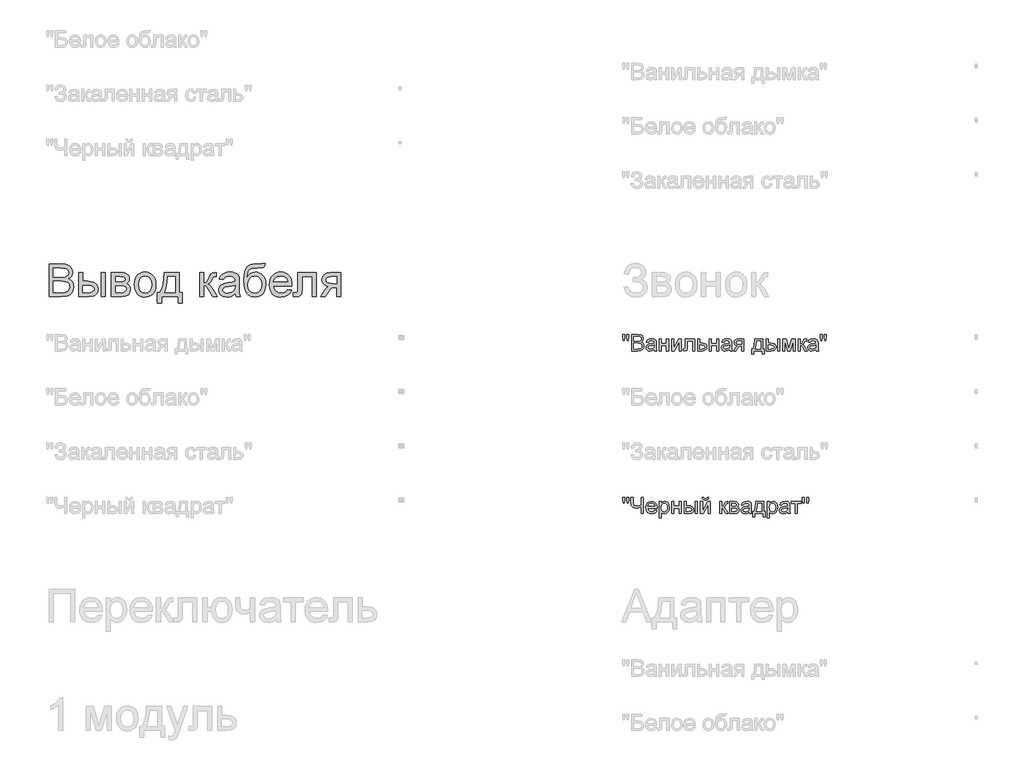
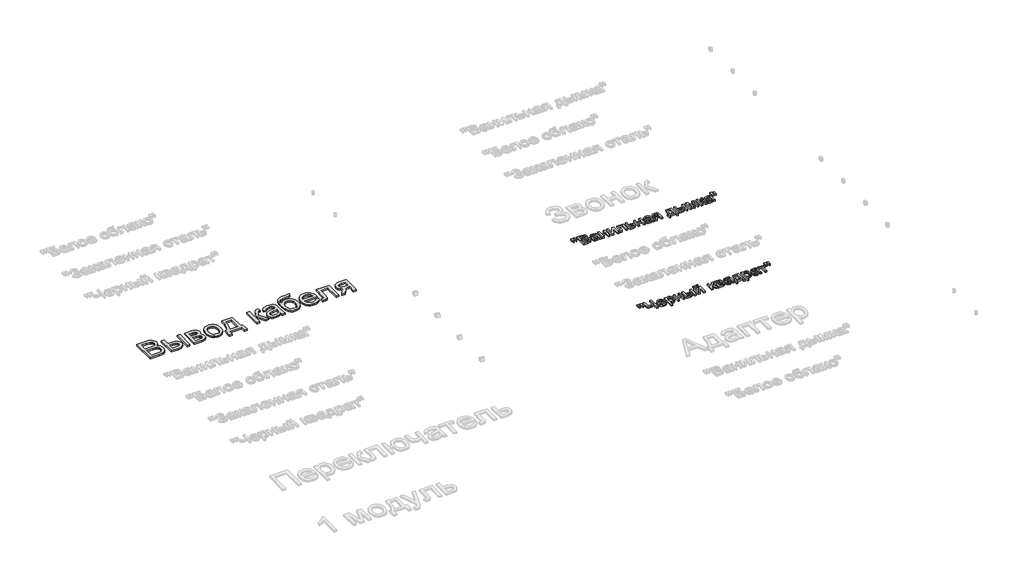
# One storey, part 65 of 168: 3 proxies.
"""IFC4 building model written with IfcOpenShell, lengths in millimetres."""

from ifc_helpers import new_model, si_unit, origin, origin_with_axes, place, context, project, spatial, polyline, outline, extrude, element, save

model = new_model("IFC4")

# Units and contexts
model_context = context("Model", 3, world=origin())
ifc_project = project(units=[si_unit("LENGTHUNIT", "METRE", prefix="MILLI")], contexts=[model_context])

# Site, building, storey
site = spatial("IfcSite", under=ifc_project)
building = spatial("IfcBuilding", under=site)
storey = spatial("IfcBuildingStorey", under=building, Name="Этаж 01", Elevation=0.0)

# Proxies
placement = place(None, origin())
element("IfcBuildingElementProxy", 1, Name="300 мм Arial 2", ObjectType="300 мм Arial 2", at=placement, inside=storey, context=model_context, shape_type="SweptSolid", body=[
    extrude(outline(polyline([(49099.0945017, -37566.8622977), (49099.0945017, -37265.4933673), (49214.0944134, -37265.4933673), (49245.7230679, -37267.7098563), (49270.4171468, -37274.3593234), (49289.3446755, -37285.6073154), (49303.6736792, -37301.6193792), (49312.6959851, -37320.4549374), (49315.7034204, -37340.1734123), (49313.1742317, -37358.3191917), (49305.5866656, -37375.3797192), (49292.8855397, -37390.3065312), (49275.0156718, -37402.0511639), (49296.3620245, -37413.1979883), (49312.1349651, -37430.1573483), (49321.8746409, -37451.8072037), (49325.1211995, -37477.0255145), (49322.9047105, -37498.0407735), (49316.2552434, -37517.5293222), (49306.3316266, -37534.1024061), (49294.2926883, -37546.3712706), (49279.5498173, -37555.2556208), (49261.5144025, -37561.6751616), (49213.2114966, -37566.8622977), (49099.0945017, -37566.8622977)]), holes=[polyline([(49136.765618, -37387.9244953), (49205.5595511, -37387.9244953), (49245.7322649, -37384.6871337), (49259.7945542, -37379.1045244), (49269.902112, -37370.7444061), (49275.9997561, -37359.7355374), (49278.0323041, -37346.206677), (49276.1377118, -37333.0732898), (49270.453935, -37321.6321597), (49261.238491, -37312.7018243), (49248.7488973, -37307.1008209), (49200.3356267, -37303.1644836), (49136.765618, -37303.1644836), (49136.765618, -37387.9244953)]), polyline([(49136.765618, -37529.1911814), (49214.020837, -37529.1911814), (49241.9798686, -37527.7196534), (49265.6346809, -37519.515885), (49281.3064539, -37502.7772542), (49285.9141759, -37490.949848), (49287.4500832, -37477.3933965), (49285.6474614, -37461.6480471), (49280.2395961, -37448.1099897), (49270.7942259, -37437.5241853), (49256.8790894, -37430.6355949), (49237.1698115, -37426.8556074), (49210.342017, -37425.5956116), (49136.765618, -37425.5956116), (49136.765618, -37529.1911814)])]), origin_with_axes(), (0.0, 0.0, 1.0), 20.0),
    extrude(outline(polyline([(49579.4012346, -37345.5444894), (49617.0723509, -37345.5444894), (49617.0723509, -37566.8622977), (49579.4012346, -37566.8622977), (49579.4012346, -37345.5444894)])), origin_with_axes(), (0.0, 0.0, 1.0), 20.0),
    extrude(outline(polyline([(49372.2100949, -37345.5444894), (49409.8812112, -37345.5444894), (49409.8812112, -37425.5956116), (49456.4550718, -37425.5956116), (49496.7105591, -37430.3136982), (49512.9272573, -37436.2113064), (49526.5365919, -37444.4679579), (49537.304038, -37454.7985442), (49544.995071, -37466.9179567), (49549.6096907, -37480.8261954), (49551.1478973, -37496.5232603), (49545.9883523, -37523.4798135), (49530.5097174, -37546.2241178), (49518.6478223, -37555.2533215), (49503.700317, -37561.7027528), (49464.5484757, -37566.8622977), (49372.2100949, -37566.8622977), (49372.2100949, -37345.5444894)]), holes=[polyline([(49409.8812112, -37529.1911814), (49448.5823971, -37529.1911814), (49478.5831738, -37527.2138157), (49498.540772, -37521.2817185), (49509.7427788, -37511.1557666), (49513.476781, -37496.5968367), (49510.708469, -37484.2911839), (49502.403533, -37473.420271), (49484.6440297, -37465.8051137), (49453.5120158, -37463.2667279), (49409.8812112, -37463.2667279), (49409.8812112, -37529.1911814)])]), origin_with_axes(), (0.0, 0.0, 1.0), 20.0),
    extrude(outline(polyline([(49673.5790253, -37345.5444894), (49756.5732034, -37345.5444894), (49783.2538451, -37346.8044853), (49802.0802062, -37350.5844728), (49815.9309634, -37357.7213835), (49827.6847931, -37369.0521489), (49835.7138177, -37383.813414), (49838.3901592, -37401.2418235), (49836.7714784, -37415.2857187), (49831.915436, -37427.3982334), (49823.8036381, -37437.6345499), (49812.4176903, -37446.0498505), (49826.3604179, -37453.87654), (49837.7279716, -37466.4673013), (49845.2879466, -37482.828853), (49847.8079382, -37501.9679138), (49841.4251856, -37530.6811035), (49826.2500533, -37550.8962191), (49802.227359, -37562.8707781), (49769.3019205, -37566.8622977), (49673.5790253, -37566.8622977), (49673.5790253, -37345.5444894)]), holes=[polyline([(49711.2501416, -37430.3045011), (49748.4797995, -37430.3045011), (49779.1979461, -37428.3915147), (49794.1339551, -37420.7395692), (49799.0727709, -37414.4119989), (49800.7190429, -37406.9072062), (49797.8311692, -37395.6684113), (49789.1675482, -37388.4395301), (49773.5141693, -37384.5215868), (49749.6570219, -37383.2156057), (49711.2501416, -37383.2156057), (49711.2501416, -37430.3045011)]), polyline([(49711.2501416, -37529.1911814), (49757.4561202, -37529.1911814), (49782.6376428, -37527.4897272), (49798.4381745, -37522.3853645), (49806.9178545, -37513.1055412), (49810.1368219, -37498.877705), (49808.5273382, -37489.4507289), (49803.698887, -37480.7411227), (49796.2860648, -37473.9261087), (49786.923468, -37470.1829094), (49753.7773003, -37467.9756174), (49711.2501416, -37467.9756174), (49711.2501416, -37529.1911814)])]), origin_with_axes(), (0.0, 0.0, 1.0), 20.0),
    extrude(outline(polyline([(49885.4790545, -37456.2033936), (49887.5162011, -37427.5407876), (49893.6276407, -37402.8421102), (49903.8133735, -37382.1073612), (49918.0733993, -37365.3365408), (49932.4299942, -37354.6173791), (49948.2765111, -37346.9608351), (49965.6129501, -37342.3669087), (49984.4393113, -37340.8355999), (50005.2223447, -37342.7003018), (50024.0142169, -37348.2944073), (50040.8149277, -37357.6179167), (50055.6244773, -37370.6708297), (50067.7117001, -37387.0116881), (50076.3454307, -37406.1990334), (50081.525669, -37428.2328656), (50083.2524152, -37453.1131848), (50080.1989946, -37491.1705772), (50071.0387329, -37520.1412843), (50056.0383446, -37541.837125), (50035.464544, -37558.069918), (50011.0279825, -37568.19587), (49984.4393113, -37571.5711873), (49963.3527751, -37569.7133832), (49944.386159, -37564.139971), (49927.5394629, -37554.8509506), (49912.8126868, -37541.8463221), (49900.8542227, -37525.3468146), (49892.3124626, -37505.5731573), (49887.1874066, -37482.5253503), (49885.4790545, -37456.2033936)]), holes=[polyline([(49923.1501709, -37456.1298172), (49927.5095725, -37490.2232811), (49940.5877774, -37514.5126898), (49960.2694642, -37529.0532257), (49984.4393113, -37533.900071), (50008.4987937, -37529.0256345), (50028.1436923, -37514.4023252), (50041.2218972, -37489.7910197), (50045.5812988, -37454.9525948), (50041.1943061, -37421.8524123), (50028.0333277, -37397.8940973), (50008.360838, -37383.3535615), (49984.4393113, -37378.5067162), (49960.2694642, -37383.3351674), (49940.5877774, -37397.820521), (49927.5095725, -37422.0547474), (49923.1501709, -37456.1298172)])]), origin_with_axes(), (0.0, 0.0, 1.0), 20.0),
    extrude(outline(polyline([(50158.5946478, -37345.5444894), (50299.8613339, -37345.5444894), (50299.8613339, -37529.1911814), (50328.1146711, -37529.1911814), (50328.1146711, -37628.0778617), (50290.4435548, -37628.0778617), (50290.4435548, -37566.8622977), (50135.0502001, -37566.8622977), (50135.0502001, -37628.0778617), (50097.3790838, -37628.0778617), (50097.3790838, -37529.1911814), (50120.9235315, -37529.1911814), (50138.0392413, -37498.2615027), (50150.0229973, -37457.3438278), (50156.8747994, -37406.4381567), (50158.5946478, -37345.5444894)]), holes=[polyline([(50191.5568745, -37383.2156057), (50188.4666658, -37429.3388109), (50182.7277067, -37469.0424752), (50174.3399972, -37502.3265987), (50163.3035373, -37529.1911814), (50262.1902176, -37529.1911814), (50262.1902176, -37383.2156057), (50191.5568745, -37383.2156057)])]), origin_with_axes(), (0.0, 0.0, 1.0), 20.0),
    extrude(outline(polyline([(50488.2169154, -37345.5444894), (50525.8880318, -37345.5444894), (50525.8880318, -37439.7222802), (50541.2103169, -37438.030023), (50551.1247366, -37432.9532515), (50559.8987222, -37419.7094997), (50571.7997047, -37393.5163016), (50588.9797939, -37359.4872171), (50604.1365321, -37348.413969), (50631.6908936, -37345.5444894), (50638.9013807, -37345.5444894), (50638.9013807, -37383.4363349), (50628.7478376, -37383.2156057), (50610.3537378, -37387.1887313), (50597.4042916, -37411.9839778), (50582.2107652, -37438.8025752), (50560.9103977, -37451.9359624), (50572.8481684, -37457.2380617), (50584.6755746, -37466.5960599), (50607.9992931, -37497.4797534), (50648.3191597, -37566.8622977), (50605.4976955, -37566.8622977), (50565.9871692, -37498.9512814), (50546.1215415, -37470.2196976), (50536.8325211, -37465.0049703), (50525.8880318, -37463.2667279), (50525.8880318, -37566.8622977), (50488.2169154, -37566.8622977), (50488.2169154, -37345.5444894)])), origin_with_axes(), (0.0, 0.0, 1.0), 20.0),
    extrude(outline(polyline([(50813.1302936, -37538.6089605), (50795.131667, -37554.0416102), (50776.5996115, -37564.139971), (50757.1110628, -37569.7133832), (50736.2429566, -37571.5711873), (50704.7614549, -37567.101421), (50681.5389039, -37553.6921223), (50667.2190972, -37533.3298539), (50662.4458284, -37508.0011785), (50664.2484501, -37492.3845878), (50669.6563155, -37478.2027369), (50677.9980397, -37466.0626311), (50688.6022382, -37456.5712756), (50714.9793773, -37444.2104405), (50747.573722, -37438.5450578), (50786.0909669, -37432.5853695), (50812.9095644, -37425.5956116), (50813.1302936, -37417.2079021), (50810.5367255, -37400.3956949), (50802.7560213, -37389.3960233), (50785.3552029, -37381.229043), (50761.1117795, -37378.5067162), (50738.6709778, -37380.318535), (50722.9992048, -37385.7539915), (50712.3122328, -37395.806367), (50704.8258342, -37411.468943), (50667.1547179, -37406.7600534), (50673.6938204, -37386.1586617), (50683.4518903, -37369.9718539), (50697.3394356, -37357.5926248), (50716.2669643, -37348.413969), (50739.4159388, -37342.7301922), (50765.9678218, -37340.8355999), (50791.4344529, -37342.509463), (50811.6219774, -37347.5310522), (50826.843095, -37355.0818302), (50837.4105053, -37364.3432594), (50844.4186573, -37375.7935865), (50848.9619999, -37389.9110581), (50850.8014099, -37422.8732848), (50850.8014099, -37469.741451), (50852.7143963, -37535.1876579), (50860.219189, -37566.8622977), (50822.5480727, -37566.8622977), (50813.1302936, -37538.6089605)]), holes=[polyline([(50813.1302936, -37463.2667279), (50752.356188, -37474.8182225), (50719.9457842, -37480.9250637), (50705.2672926, -37490.8578775), (50700.1169447, -37505.3524281), (50702.9220449, -37516.5544349), (50711.3373455, -37525.7330907), (50725.1789056, -37531.8583259), (50744.2627841, -37533.900071), (50764.4962938, -37531.6467937), (50782.3753588, -37524.8869621), (50796.8699094, -37514.9265571), (50806.9498761, -37503.0715598), (50811.4196423, -37490.8578775), (50812.9095644, -37473.9353058), (50813.1302936, -37463.2667279)])]), origin_with_axes(), (0.0, 0.0, 1.0), 20.0),
    extrude(outline(polyline([(51057.9925496, -37260.7844777), (51090.9547763, -37260.7844777), (51087.386321, -37278.6911339), (51081.2426917, -37290.1782492), (51072.7262235, -37296.974869), (51062.0392515, -37300.8100388), (51015.9068493, -37303.1644836), (50977.6011366, -37305.3349874), (50953.7715803, -37311.8464987), (50939.516153, -37323.1404759), (50929.9328271, -37339.6583775), (50924.2950355, -37361.5289621), (50921.8762114, -37388.8809885), (50937.0237525, -37367.8381383), (50954.5073443, -37352.8285529), (50974.3453809, -37343.8338382), (50996.5562564, -37340.8355999), (51017.0794732, -37342.7416885), (51035.754083, -37348.4599542), (51052.5800857, -37357.9903972), (51067.5574814, -37371.3330173), (51079.8539371, -37387.9267945), (51088.6371198, -37407.2107089), (51093.9070294, -37429.1847603), (51095.6636659, -37453.8489488), (51092.177984, -37489.8094138), (51081.7209383, -37518.6697564), (51066.4814266, -37541.101361), (51048.6483469, -37557.7756125), (51026.0603924, -37568.1222936), (50996.5562564, -37571.5711873), (50962.554763, -37567.1290122), (50937.0697378, -37553.8024869), (50918.3169531, -37533.5505831), (50904.5121812, -37508.3322723), (50896.0141071, -37470.3576533), (50893.1814157, -37411.836825), (50894.9679427, -37372.1722481), (50900.3275235, -37339.55721), (50909.2601582, -37313.9917106), (50921.7658468, -37295.4757499), (50937.9779464, -37282.3584575), (50958.0298144, -37272.9889629), (50981.9214508, -37267.3672662), (51009.6528554, -37265.4933673), (51051.5914029, -37264.6472387), (51057.9925496, -37260.7844777)]), holes=[polyline([(51057.9925496, -37452.6717264), (51053.9090594, -37423.0296347), (51041.658589, -37399.2920489), (51021.9769022, -37383.7030494), (50995.5997632, -37378.5067162), (50968.1005841, -37383.997355), (50957.0135404, -37390.8606535), (50947.7015274, -37400.4692713), (50935.0647809, -37426.1198434), (50930.852532, -37459.1464495), (50935.5062393, -37491.1613802), (50949.467361, -37514.6598426), (50970.2526937, -37529.0900139), (50995.379034, -37533.900071), (51020.634133, -37528.3358558), (51040.6285194, -37511.6432103), (51053.651542, -37485.7719089), (51057.9925496, -37452.6717264)])]), origin_with_axes(), (0.0, 0.0, 1.0), 20.0),
    extrude(outline(polyline([(51297.7044576, -37500.9378442), (51334.6398099, -37505.6467337), (51321.3316788, -37533.4770067), (51300.0956906, -37554.2807335), (51271.410092, -37567.2485738), (51235.7531296, -37571.5711873), (51212.3788274, -37569.7064854), (51191.5521079, -37564.1123798), (51173.2729713, -37554.7888705), (51157.5414175, -37541.7359575), (51144.8908754, -37525.3169242), (51135.8547739, -37505.8950541), (51130.433113, -37483.4703472), (51128.6258926, -37458.0428036), (51130.4515071, -37431.7530365), (51135.9283503, -37408.5810693), (51145.0564223, -37388.526902), (51157.8357231, -37371.5905347), (51173.5258902, -37358.1352507), (51191.386561, -37348.5243336), (51211.4177357, -37342.7577833), (51233.6194141, -37340.8355999), (51255.1060219, -37342.7531848), (51274.537089, -37348.5059395), (51291.9126155, -37358.093864), (51307.2326013, -37371.5169583), (51319.7382899, -37388.4165374), (51328.6709246, -37408.4339165), (51334.0305054, -37431.5690955), (51335.8170323, -37457.8220744), (51335.5963031, -37467.9756174), (51166.297009, -37467.9756174), (51172.8177173, -37496.1737724), (51187.9652585, -37516.9039228), (51209.826646, -37529.6510339), (51236.4888936, -37533.900071), (51256.5384624, -37531.9319023), (51273.424246, -37526.0273963), (51287.1462444, -37515.8186709), (51297.7044576, -37500.9378442)]), holes=[polyline([(51166.297009, -37430.3045011), (51298.145916, -37430.3045011), (51293.0507504, -37410.4020852), (51283.0627542, -37396.165052), (51261.1001991, -37382.9213001), (51233.4722613, -37378.5067162), (51208.0792066, -37382.0291863), (51187.0823417, -37392.5965966), (51172.4866235, -37409.068513), (51166.297009, -37430.3045011)])]), origin_with_axes(), (0.0, 0.0, 1.0), 20.0),
    extrude(outline(polyline([(51392.3237068, -37345.5444894), (51561.8437302, -37345.5444894), (51561.8437302, -37566.6415685), (51524.1726139, -37566.6415685), (51524.1726139, -37383.2156057), (51429.9948231, -37383.2156057), (51429.9948231, -37488.7977384), (51427.4564373, -37537.5053145), (51422.7015625, -37548.5325773), (51413.5137097, -37558.069918), (51399.5709821, -37564.6642028), (51380.5514829, -37566.8622977), (51349.9437009, -37564.9493114), (51349.9437009, -37529.1911814), (51366.7926963, -37529.1911814), (51383.8256327, -37526.8735249), (51390.6314496, -37519.515885), (51392.3237068, -37486.6640228), (51392.3237068, -37345.5444894)])), origin_with_axes(), (0.0, 0.0, 1.0), 20.0),
    extrude(outline(polyline([(51787.870428, -37345.5444894), (51787.870428, -37566.8622977), (51750.1993117, -37566.8622977), (51750.1993117, -37482.102286), (51729.6714964, -37482.102286), (51701.7124647, -37486.884752), (51690.5472462, -37497.3142065), (51675.4456903, -37519.0376384), (51645.4265195, -37566.8622977), (51601.8692912, -37566.8622977), (51639.6875603, -37506.3824977), (51656.3894029, -37484.67746), (51671.7668703, -37475.0389517), (51646.0151307, -37467.1478829), (51627.9153365, -37452.1566916), (51617.2099704, -37432.2174875), (51613.6415151, -37409.4823802), (51618.5159515, -37383.6938523), (51633.1392608, -37363.2764016), (51656.9964082, -37349.9774675), (51689.5723589, -37345.5444894), (51787.870428, -37345.5444894)]), holes=[polyline([(51750.1993117, -37383.2156057), (51700.5352424, -37383.2156057), (51674.8846702, -37385.3953066), (51660.3257403, -37391.934409), (51653.5659086, -37401.3981734), (51651.3126314, -37412.3518598), (51654.6327664, -37426.7084546), (51664.5931714, -37436.6688596), (51682.9964682, -37442.4905922), (51711.6452786, -37444.4311697), (51750.1993117, -37444.4311697), (51750.1993117, -37383.2156057)])]), origin_with_axes(), (0.0, 0.0, 1.0), 20.0),
])
element("IfcBuildingElementProxy", 2, Name="150", ObjectType="150", at=placement, inside=storey, context=model_context, shape_type="SweptSolid", body=[
    extrude(outline(polyline([(54389.7772739, -37970.3300622), (54385.178749, -37941.2305964), (54385.178749, -37916.1778325), (54404.0143071, -37916.1778325), (54404.0143071, -37941.2305964), (54399.8940288, -37970.3300622), (54389.7772739, -37970.3300622)])), origin_with_axes(), (0.0, 0.0, 1.0), 20.0),
    extrude(outline(polyline([(54427.3380256, -37970.3300622), (54422.8498653, -37941.2305964), (54422.8498653, -37916.1778325), (54441.6854234, -37916.1778325), (54441.6854234, -37941.2305964), (54437.2708395, -37970.3300622), (54427.3380256, -37970.3300622)])), origin_with_axes(), (0.0, 0.0, 1.0), 20.0),
    extrude(outline(polyline([(54467.5843159, -38066.8622977), (54467.5843159, -37916.1778325), (54525.0842718, -37916.1778325), (54553.2456385, -37920.6108106), (54562.7094028, -37926.2348066), (54569.8739047, -37934.2408385), (54575.8887753, -37953.517855), (54570.8303979, -37971.1210085), (54555.544901, -37984.4567308), (54566.2180773, -37990.030143), (54574.1045476, -37998.509823), (54578.9743855, -38009.3347507), (54580.5976648, -38021.9439061), (54576.1646868, -38042.19581), (54565.1834092, -38056.6167842), (54548.7942663, -38064.2687297), (54524.6428134, -38066.8622977), (54467.5843159, -38066.8622977)]), holes=[polyline([(54486.4198741, -37977.3933965), (54520.8168406, -37977.3933965), (54540.9031975, -37975.7747157), (54552.9881211, -37968.8033519), (54557.0532171, -37956.5344874), (54553.2640326, -37944.2472287), (54542.4115137, -37936.9815593), (54518.2048784, -37935.0133907), (54486.4198741, -37935.0133907), (54486.4198741, -37977.3933965)]), polyline([(54486.4198741, -38048.0267396), (54525.0474836, -38048.0267396), (54539.0269994, -38047.2909756), (54550.8544055, -38043.1890913), (54558.690292, -38034.819776), (54561.7621067, -38022.1278471), (54558.1568631, -38007.4861437), (54546.4766098, -37998.7489463), (54523.2080736, -37996.2289547), (54486.4198741, -37996.2289547), (54486.4198741, -38048.0267396)])]), origin_with_axes(), (0.0, 0.0, 1.0), 20.0),
    extrude(outline(polyline([(54674.7754556, -38052.7356291), (54656.5101145, -38065.5011344), (54636.3317871, -38069.2167425), (54620.5910362, -38066.9818594), (54608.9797608, -38060.27721), (54601.8198574, -38050.0960758), (54599.433223, -38037.4317381), (54603.0384665, -38022.5325173), (54612.5114279, -38011.7167867), (54625.6999974, -38005.5363691), (54641.9971698, -38002.7036778), (54674.665091, -37996.2289547), (54674.7754556, -37992.0350999), (54673.4786716, -37983.6289963), (54669.5883195, -37978.1291605), (54660.8879103, -37974.0456704), (54648.7661985, -37972.684507), (54629.7099112, -37976.3081446), (54620.6232259, -37989.1656204), (54601.7876677, -37986.8111756), (54609.9362539, -37968.4170758), (54626.3437909, -37957.6381334), (54651.1942197, -37953.8489488), (54674.0212975, -37957.196675), (54686.9155614, -37965.6027786), (54692.6913088, -37978.3866779), (54693.6110137, -37994.8677913), (54693.6110137, -38018.3018744), (54694.5675069, -38051.0249778), (54698.3199033, -38066.8622977), (54679.4843451, -38066.8622977), (54674.7754556, -38052.7356291)]), holes=[polyline([(54674.7754556, -38015.0645128), (54644.3884028, -38020.8402601), (54628.1832009, -38023.8936807), (54620.8439551, -38028.8600876), (54618.2687811, -38036.1073629), (54623.8789816, -38046.2976942), (54640.3417008, -38050.3811843), (54659.3979882, -38045.8746299), (54671.6852468, -38034.9669288), (54674.665091, -38020.3988017), (54674.7754556, -38015.0645128)])]), origin_with_axes(), (0.0, 0.0, 1.0), 20.0),
    extrude(outline(polyline([(54719.5099062, -37956.2033936), (54738.3454644, -37956.2033936), (54738.3454644, -37998.5833994), (54787.7888045, -37998.5833994), (54787.7888045, -37956.2033936), (54806.6243627, -37956.2033936), (54806.6243627, -38066.8622977), (54787.7888045, -38066.8622977), (54787.7888045, -38017.4189576), (54738.3454644, -38017.4189576), (54738.3454644, -38066.8622977), (54719.5099062, -38066.8622977), (54719.5099062, -37956.2033936)])), origin_with_axes(), (0.0, 0.0, 1.0), 20.0),
    extrude(outline(polyline([(54834.8776999, -37956.2033936), (54853.713258, -37956.2033936), (54853.713258, -38040.5955233), (54899.992813, -37956.2033936), (54924.3466011, -37956.2033936), (54924.3466011, -38066.8622977), (54905.511043, -38066.8622977), (54905.511043, -37982.9852028), (54859.5257936, -38066.8622977), (54834.8776999, -38066.8622977), (54834.8776999, -37956.2033936)])), origin_with_axes(), (0.0, 0.0, 1.0), 20.0),
    extrude(outline(polyline([(54962.0177174, -37956.2033936), (55046.7777291, -37956.2033936), (55046.7777291, -38066.7519331), (55027.942171, -38066.7519331), (55027.942171, -37975.0389517), (54980.8532756, -37975.0389517), (54980.8532756, -38027.830018), (54979.5840827, -38052.1838061), (54972.6127189, -38062.4661079), (54956.1316055, -38066.8622977), (54940.8277145, -38065.9058045), (54940.8277145, -38048.0267396), (54949.2522122, -38048.0267396), (54957.7686804, -38046.8679113), (54961.1715888, -38043.1890913), (54962.0177174, -38026.7631603), (54962.0177174, -37956.2033936)])), origin_with_axes(), (0.0, 0.0, 1.0), 20.0),
    extrude(outline(polyline([(55075.0310663, -37956.2033936), (55093.8666245, -37956.2033936), (55093.8666245, -37996.2289547), (55115.5716622, -37996.2289547), (55134.3888263, -37998.587998), (55148.3131598, -38005.6651278), (55156.9215985, -38016.8901272), (55159.791078, -38031.692779), (55157.3492613, -38045.1710556), (55150.0238111, -38056.5432078), (55137.3272837, -38064.2825252), (55118.7722356, -38066.8622977), (55075.0310663, -38066.8622977), (55075.0310663, -37956.2033936)]), holes=[polyline([(55093.8666245, -38048.0267396), (55111.4513839, -38048.0267396), (55134.1680971, -38044.0720081), (55139.2586642, -38039.0090322), (55140.9555199, -38031.7295672), (55135.9339306, -38020.1412843), (55127.8635194, -38016.3337057), (55113.695464, -38015.0645128), (55093.8666245, -38015.0645128), (55093.8666245, -38048.0267396)])]), origin_with_axes(), (0.0, 0.0, 1.0), 20.0),
    extrude(outline(polyline([(55183.3355257, -37956.2033936), (55202.1710839, -37956.2033936), (55202.1710839, -37998.5833994), (55251.614424, -37998.5833994), (55251.614424, -37956.2033936), (55270.4499822, -37956.2033936), (55270.4499822, -38066.8622977), (55251.614424, -38066.8622977), (55251.614424, -38017.4189576), (55202.1710839, -38017.4189576), (55202.1710839, -38066.8622977), (55183.3355257, -38066.8622977), (55183.3355257, -37956.2033936)])), origin_with_axes(), (0.0, 0.0, 1.0), 20.0),
    extrude(outline(polyline([(55369.3366625, -38052.7356291), (55351.0713214, -38065.5011344), (55330.892994, -38069.2167425), (55315.1522431, -38066.9818594), (55303.5409676, -38060.27721), (55296.3810643, -38050.0960758), (55293.9944299, -38037.4317381), (55297.5996734, -38022.5325173), (55307.0726348, -38011.7167867), (55320.2612043, -38005.5363691), (55336.5583767, -38002.7036778), (55369.2262979, -37996.2289547), (55369.3366625, -37992.0350999), (55368.0398785, -37983.6289963), (55364.1495264, -37978.1291605), (55355.4491172, -37974.0456704), (55343.3274054, -37972.684507), (55324.2711181, -37976.3081446), (55315.1844328, -37989.1656204), (55296.3488746, -37986.8111756), (55304.4974608, -37968.4170758), (55320.9049978, -37957.6381334), (55345.7554266, -37953.8489488), (55368.5825044, -37957.196675), (55381.4767683, -37965.6027786), (55387.2525157, -37978.3866779), (55388.1722206, -37994.8677913), (55388.1722206, -38018.3018744), (55389.1287138, -38051.0249778), (55392.8811102, -38066.8622977), (55374.045552, -38066.8622977), (55369.3366625, -38052.7356291)]), holes=[polyline([(55369.3366625, -38015.0645128), (55338.9496097, -38020.8402601), (55322.7444078, -38023.8936807), (55315.405162, -38028.8600876), (55312.829988, -38036.1073629), (55318.4401885, -38046.2976942), (55334.9029077, -38050.3811843), (55353.9591951, -38045.8746299), (55366.2464537, -38034.9669288), (55369.2262979, -38020.3988017), (55369.3366625, -38015.0645128)])]), origin_with_axes(), (0.0, 0.0, 1.0), 20.0),
    extrude(outline(polyline([(55498.8311248, -37956.2033936), (55498.8311248, -38066.8622977), (55479.9955666, -38066.8622977), (55479.9955666, -38024.4822919), (55469.731659, -38024.4822919), (55455.7521432, -38026.8735249), (55442.6187559, -38042.949968), (55427.6091705, -38066.8622977), (55405.8305564, -38066.8622977), (55424.739691, -38036.6223977), (55433.0906122, -38025.7698789), (55440.7793459, -38020.9506247), (55427.9034761, -38017.0050903), (55418.853579, -38009.5094947), (55413.500896, -37999.5398926), (55411.7166683, -37988.172339), (55414.1538865, -37975.278075), (55421.4655412, -37965.0693497), (55433.3941149, -37958.4198826), (55449.6820902, -37956.2033936), (55498.8311248, -37956.2033936)]), holes=[polyline([(55479.9955666, -37975.0389517), (55455.163532, -37975.0389517), (55442.3382459, -37976.1288021), (55435.0587809, -37979.3983534), (55430.5522265, -37989.6070787), (55432.212294, -37996.7853762), (55437.1924965, -38001.7655787), (55460.7185501, -38005.6467337), (55479.9955666, -38005.6467337), (55479.9955666, -37975.0389517)])]), origin_with_axes(), (0.0, 0.0, 1.0), 20.0),
    extrude(outline(polyline([(55602.4266946, -37956.2033936), (55673.0600377, -37956.2033936), (55673.0600377, -38048.0267396), (55687.1867063, -38048.0267396), (55687.1867063, -38097.4700797), (55668.3511482, -38097.4700797), (55668.3511482, -38066.8622977), (55590.6544708, -38066.8622977), (55590.6544708, -38097.4700797), (55571.8189126, -38097.4700797), (55571.8189126, -38048.0267396), (55583.5911365, -38048.0267396), (55592.1489914, -38032.5619002), (55598.1408694, -38012.1030628), (55602.4266946, -37956.2033936)]), holes=[polyline([(55618.907808, -37975.0389517), (55614.4932241, -38017.9523865), (55604.7811394, -38048.0267396), (55654.2244796, -38048.0267396), (55654.2244796, -37975.0389517), (55618.907808, -37975.0389517)])]), origin_with_axes(), (0.0, 0.0, 1.0), 20.0),
    extrude(outline(polyline([(55811.9722791, -37956.2033936), (55830.8078372, -37956.2033936), (55830.8078372, -38066.8622977), (55811.9722791, -38066.8622977), (55811.9722791, -37956.2033936)])), origin_with_axes(), (0.0, 0.0, 1.0), 20.0),
    extrude(outline(polyline([(55708.3767092, -37956.2033936), (55727.2122674, -37956.2033936), (55727.2122674, -37996.2289547), (55750.4991977, -37996.2289547), (55770.6269413, -37998.587998), (55785.5399577, -38005.6651278), (55794.7691973, -38016.8901272), (55797.8456105, -38031.692779), (55795.265838, -38045.1710556), (55787.5265205, -38056.5432078), (55774.1218203, -38064.2825252), (55754.5458996, -38066.8622977), (55708.3767092, -38066.8622977), (55708.3767092, -37956.2033936)]), holes=[polyline([(55727.2122674, -38048.0267396), (55746.5628603, -38048.0267396), (55771.5420478, -38044.0720081), (55777.1430512, -38039.0090322), (55779.0100523, -38031.7295672), (55773.4734283, -38020.1412843), (55764.5936766, -38016.3337057), (55749.0276697, -38015.0645128), (55727.2122674, -38015.0645128), (55727.2122674, -38048.0267396)])]), origin_with_axes(), (0.0, 0.0, 1.0), 20.0),
    extrude(outline(polyline([(55859.0611745, -37956.2033936), (55891.4715782, -37956.2033936), (55916.4507657, -38044.789378), (55943.3797278, -37956.2033936), (55974.4289682, -37956.2033936), (55974.4289682, -38066.8622977), (55955.59341, -38066.8622977), (55955.59341, -37977.7612785), (55928.5172952, -38066.8622977), (55903.7956251, -38066.8622977), (55877.8967326, -37973.4938474), (55877.8967326, -38066.8622977), (55859.0611745, -38066.8622977), (55859.0611745, -37956.2033936)])), origin_with_axes(), (0.0, 0.0, 1.0), 20.0),
    extrude(outline(polyline([(56002.6823054, -37956.2033936), (56021.5178635, -37956.2033936), (56021.5178635, -38003.292289), (56034.136216, -37999.9077746), (56044.4737, -37980.1892997), (56053.0637446, -37963.1747574), (56060.6421137, -37957.6381334), (56074.4192944, -37956.2033936), (56078.024538, -37956.2033936), (56078.024538, -37975.1493163), (56072.9477665, -37975.0389517), (56063.7507166, -37977.0255145), (56057.2759935, -37989.4231377), (56049.6792303, -38002.8324365), (56039.0290465, -38009.3991301), (56050.9116349, -38016.7291788), (56062.5734942, -38032.1710256), (56082.7334275, -38066.8622977), (56061.3226954, -38066.8622977), (56041.5674323, -38032.9067896), (56031.6346184, -38018.5409977), (56021.5178635, -38015.0645128), (56021.5178635, -38066.8622977), (56002.6823054, -38066.8622977), (56002.6823054, -37956.2033936)])), origin_with_axes(), (0.0, 0.0, 1.0), 20.0),
    extrude(outline(polyline([(56165.1389945, -38052.7356291), (56146.8736534, -38065.5011344), (56126.695326, -38069.2167425), (56110.9545751, -38066.9818594), (56099.3432996, -38060.27721), (56092.1833963, -38050.0960758), (56089.7967618, -38037.4317381), (56093.4020054, -38022.5325173), (56102.8749668, -38011.7167867), (56116.0635363, -38005.5363691), (56132.3607087, -38002.7036778), (56165.0286299, -37996.2289547), (56165.1389945, -37992.0350999), (56163.8422104, -37983.6289963), (56159.9518583, -37978.1291605), (56151.2514491, -37974.0456704), (56139.1297374, -37972.684507), (56120.07345, -37976.3081446), (56110.9867648, -37989.1656204), (56092.1512066, -37986.8111756), (56100.2997928, -37968.4170758), (56116.7073298, -37957.6381334), (56141.5577586, -37953.8489488), (56164.3848364, -37957.196675), (56177.2791003, -37965.6027786), (56183.0548476, -37978.3866779), (56183.9745526, -37994.8677913), (56183.9745526, -38018.3018744), (56184.9310458, -38051.0249778), (56188.6834421, -38066.8622977), (56169.847884, -38066.8622977), (56165.1389945, -38052.7356291)]), holes=[polyline([(56165.1389945, -38015.0645128), (56134.7519417, -38020.8402601), (56118.5467398, -38023.8936807), (56111.207494, -38028.8600876), (56108.63232, -38036.1073629), (56114.2425204, -38046.2976942), (56130.7052397, -38050.3811843), (56149.7615271, -38045.8746299), (56162.0487857, -38034.9669288), (56165.0286299, -38020.3988017), (56165.1389945, -38015.0645128)])]), origin_with_axes(), (0.0, 0.0, 1.0), 20.0),
    extrude(outline(polyline([(56209.7630805, -37970.3300622), (56205.1645555, -37941.2305964), (56205.1645555, -37916.1778325), (56224.0001137, -37916.1778325), (56224.0001137, -37941.2305964), (56219.8798353, -37970.3300622), (56209.7630805, -37970.3300622)])), origin_with_axes(), (0.0, 0.0, 1.0), 20.0),
    extrude(outline(polyline([(56247.3238322, -37970.3300622), (56242.8356718, -37941.2305964), (56242.8356718, -37916.1778325), (56261.67123, -37916.1778325), (56261.67123, -37941.2305964), (56257.256646, -37970.3300622), (56247.3238322, -37970.3300622)])), origin_with_axes(), (0.0, 0.0, 1.0), 20.0),
])
element("IfcBuildingElementProxy", 3, Name="150", ObjectType="150", at=placement, inside=storey, context=model_context, shape_type="SweptSolid", body=[
    extrude(outline(polyline([(54389.7772739, -39470.3300622), (54385.178749, -39441.2305964), (54385.178749, -39416.1778325), (54404.0143071, -39416.1778325), (54404.0143071, -39441.2305964), (54399.8940288, -39470.3300622), (54389.7772739, -39470.3300622)])), origin_with_axes(), (0.0, 0.0, 1.0), 20.0),
    extrude(outline(polyline([(54427.3380256, -39470.3300622), (54422.8498653, -39441.2305964), (54422.8498653, -39416.1778325), (54441.6854234, -39416.1778325), (54441.6854234, -39441.2305964), (54437.2708395, -39470.3300622), (54427.3380256, -39470.3300622)])), origin_with_axes(), (0.0, 0.0, 1.0), 20.0),
    extrude(outline(polyline([(54573.5343305, -39566.8622977), (54554.6987724, -39566.8622977), (54554.6987724, -39506.5296505), (54529.7195849, -39514.6966308), (54508.0513354, -39517.4189576), (54493.3682452, -39515.556555), (54480.515368, -39509.9693472), (54470.554963, -39501.5172583), (54464.5492894, -39491.0602126), (54460.5209816, -39461.0594359), (54460.5209816, -39416.1778325), (54479.3565398, -39416.1778325), (54479.3565398, -39458.5210502), (54481.619014, -39478.8879171), (54488.4064368, -39490.8394834), (54498.3668419, -39496.6474204), (54510.1482628, -39498.5833994), (54531.8808916, -39496.2473488), (54554.6987724, -39489.2391968), (54554.6987724, -39416.1778325), (54573.5343305, -39416.1778325), (54573.5343305, -39566.8622977)])), origin_with_axes(), (0.0, 0.0, 1.0), 20.0),
    extrude(outline(polyline([(54681.6180607, -39533.900071), (54700.0857369, -39536.2545157), (54693.4316713, -39550.1696522), (54682.8136772, -39560.5715156), (54668.4708779, -39567.0554358), (54650.6423967, -39569.2167425), (54628.5418858, -39565.4873388), (54611.5365406, -39554.2991276), (54600.6932188, -39536.3786759), (54597.0787782, -39512.4525506), (54600.730007, -39487.7216835), (54611.6836934, -39469.2264162), (54628.4591124, -39457.6933157), (54649.5755389, -39453.8489488), (54670.0343764, -39457.6841186), (54686.3821325, -39469.189628), (54697.1012942, -39487.6481071), (54700.6743481, -39512.342186), (54700.5639835, -39517.4189576), (54615.9143364, -39517.4189576), (54619.1746905, -39531.518035), (54626.7484611, -39541.8831103), (54637.6791549, -39548.2566658), (54651.0102787, -39550.3811843), (54669.4779549, -39546.444847), (54681.6180607, -39533.900071)]), holes=[polyline([(54615.9143364, -39498.5833994), (54681.8387899, -39498.5833994), (54679.2912071, -39488.6321915), (54674.297209, -39481.5136749), (54663.3159314, -39474.8917989), (54649.5019625, -39472.684507), (54636.8054352, -39474.445742), (54626.3070027, -39479.7294472), (54619.0091436, -39487.9654053), (54615.9143364, -39498.5833994)])]), origin_with_axes(), (0.0, 0.0, 1.0), 20.0),
    extrude(outline(polyline([(54719.5099062, -39609.2423036), (54719.5099062, -39456.2033936), (54738.3454644, -39456.2033936), (54738.3454644, -39474.6710697), (54751.368487, -39459.054479), (54768.9532464, -39453.8489488), (54781.6911604, -39455.6699647), (54792.8287878, -39461.1330123), (54801.897079, -39469.9069979), (54808.4269844, -39481.6608277), (54813.687697, -39510.6867171), (54812.2023734, -39526.7953499), (54807.7464027, -39541.2025286), (54800.4623392, -39553.1770875), (54790.4927372, -39561.9878613), (54778.8814617, -39567.4095222), (54766.672378, -39569.2167425), (54750.2832351, -39564.3790943), (54738.3454644, -39552.1470179), (54738.3454644, -39609.2423036), (54719.5099062, -39609.2423036)]), holes=[polyline([(54738.3454644, -39512.4157624), (54740.3826109, -39529.301546), (54746.4940506, -39541.1105581), (54755.511758, -39548.0635278), (54766.2677078, -39550.3811843), (54777.1984016, -39547.9807543), (54786.4460352, -39540.7794643), (54792.7506129, -39528.5381909), (54794.8521388, -39511.0178109), (54792.8011967, -39494.2239978), (54786.6483703, -39482.2494388), (54777.6444585, -39475.0757399), (54767.04026, -39472.684507), (54756.3946747, -39475.2274913), (54747.0458735, -39482.8564441), (54740.5205667, -39495.3322423), (54738.3454644, -39512.4157624)])]), origin_with_axes(), (0.0, 0.0, 1.0), 20.0),
    extrude(outline(polyline([(54834.8776999, -39456.2033936), (54853.713258, -39456.2033936), (54853.713258, -39498.5833994), (54903.1565982, -39498.5833994), (54903.1565982, -39456.2033936), (54921.9921564, -39456.2033936), (54921.9921564, -39566.8622977), (54903.1565982, -39566.8622977), (54903.1565982, -39517.4189576), (54853.713258, -39517.4189576), (54853.713258, -39566.8622977), (54834.8776999, -39566.8622977), (54834.8776999, -39456.2033936)])), origin_with_axes(), (0.0, 0.0, 1.0), 20.0),
    extrude(outline(polyline([(55053.8410634, -39456.2033936), (55072.6766216, -39456.2033936), (55072.6766216, -39566.8622977), (55053.8410634, -39566.8622977), (55053.8410634, -39456.2033936)])), origin_with_axes(), (0.0, 0.0, 1.0), 20.0),
    extrude(outline(polyline([(54950.2454936, -39456.2033936), (54969.0810517, -39456.2033936), (54969.0810517, -39496.2289547), (54992.367982, -39496.2289547), (55012.4957257, -39498.587998), (55027.4087421, -39505.6651278), (55036.6379816, -39516.8901272), (55039.7143948, -39531.692779), (55037.1346223, -39545.1710556), (55029.3953048, -39556.5432078), (55015.9906046, -39564.2825252), (54996.414684, -39566.8622977), (54950.2454936, -39566.8622977), (54950.2454936, -39456.2033936)]), holes=[polyline([(54969.0810517, -39548.0267396), (54988.4316447, -39548.0267396), (55013.4108322, -39544.0720081), (55019.0118355, -39539.0090322), (55020.8788367, -39531.7295672), (55015.3422126, -39520.1412843), (55006.462461, -39516.3337057), (54990.896454, -39515.0645128), (54969.0810517, -39515.0645128), (54969.0810517, -39548.0267396)])]), origin_with_axes(), (0.0, 0.0, 1.0), 20.0),
    extrude(outline(polyline([(55100.9299588, -39456.2033936), (55119.765517, -39456.2033936), (55119.765517, -39540.5955233), (55166.045072, -39456.2033936), (55190.39886, -39456.2033936), (55190.39886, -39566.8622977), (55171.5633019, -39566.8622977), (55171.5633019, -39482.9852028), (55125.5780525, -39566.8622977), (55100.9299588, -39566.8622977), (55100.9299588, -39456.2033936)])), origin_with_axes(), (0.0, 0.0, 1.0), 20.0),
    extrude(outline(polyline([(55162.1455228, -39416.1778325), (55176.2721914, -39416.1778325), (55173.2325664, -39428.2397634), (55167.1303238, -39437.1287121), (55158.2413751, -39442.6055553), (55146.8416318, -39444.4311697), (55134.4715997, -39442.6193509), (55124.8790767, -39437.1838944), (55118.3215801, -39428.3087413), (55115.0566274, -39416.1778325), (55129.183296, -39416.1778325), (55134.4807968, -39426.7912281), (55145.1493746, -39430.3045011), (55156.8480221, -39426.9015927), (55162.1455228, -39416.1778325)])), origin_with_axes(), (0.0, 0.0, 1.0), 20.0),
    extrude(outline(polyline([(55277.5133165, -39456.2033936), (55296.3488746, -39456.2033936), (55296.3488746, -39503.292289), (55308.9672271, -39499.9077746), (55319.3047111, -39480.1892997), (55327.8947557, -39463.1747574), (55335.4731248, -39457.6381334), (55349.2503055, -39456.2033936), (55352.8555491, -39456.2033936), (55352.8555491, -39475.1493163), (55347.7787776, -39475.0389517), (55338.5817277, -39477.0255145), (55332.1070046, -39489.4231377), (55324.5102414, -39502.8324365), (55313.8600576, -39509.3991301), (55325.7426461, -39516.7291788), (55337.4045053, -39532.1710256), (55357.5644386, -39566.8622977), (55336.1537065, -39566.8622977), (55316.3984434, -39532.9067896), (55306.4656295, -39518.5409977), (55296.3488746, -39515.0645128), (55296.3488746, -39566.8622977), (55277.5133165, -39566.8622977), (55277.5133165, -39456.2033936)])), origin_with_axes(), (0.0, 0.0, 1.0), 20.0),
    extrude(outline(polyline([(55369.3366625, -39456.2033936), (55410.8337515, -39456.2033936), (55433.5872529, -39458.7233853), (55446.3895464, -39467.9572233), (55451.7422294, -39484.0520606), (55448.5048678, -39497.1302655), (55438.755995, -39506.4560741), (55451.4111356, -39516.6647995), (55456.4511189, -39534.4151058), (55453.2597426, -39548.7717006), (55445.6721765, -39558.8792584), (55433.6608293, -39564.8665379), (55417.1981101, -39566.8622977), (55369.3366625, -39566.8622977), (55369.3366625, -39456.2033936)]), holes=[polyline([(55388.1722206, -39498.5833994), (55406.7870496, -39498.5833994), (55422.1461229, -39497.6269062), (55429.6141274, -39493.8009335), (55432.9066713, -39486.884752), (55431.4627344, -39481.2653545), (55427.1309239, -39477.6509139), (55407.3756608, -39475.0389517), (55388.1722206, -39475.0389517), (55388.1722206, -39498.5833994)]), polyline([(55388.1722206, -39548.0267396), (55411.2752099, -39548.0267396), (55431.7662371, -39544.6238311), (55436.0060771, -39539.9839195), (55437.6155608, -39532.8700014), (55434.3965933, -39523.8017102), (55426.0088838, -39518.5226036), (55409.4358, -39517.4189576), (55388.1722206, -39517.4189576), (55388.1722206, -39548.0267396)])]), origin_with_axes(), (0.0, 0.0, 1.0), 20.0),
    extrude(outline(polyline([(55550.6289097, -39552.7356291), (55532.3635686, -39565.5011344), (55512.1852412, -39569.2167425), (55496.4444903, -39566.9818594), (55484.8332149, -39560.27721), (55477.6733115, -39550.0960758), (55475.2866771, -39537.4317381), (55478.8919206, -39522.5325173), (55488.364882, -39511.7167867), (55501.5534516, -39505.5363691), (55517.8506239, -39502.7036778), (55550.5185451, -39496.2289547), (55550.6289097, -39492.0350999), (55549.3321257, -39483.6289963), (55545.4417736, -39478.1291605), (55536.7413644, -39474.0456704), (55524.6196526, -39472.684507), (55505.5633653, -39476.3081446), (55496.47668, -39489.1656204), (55477.6411219, -39486.8111756), (55485.7897081, -39468.4170758), (55502.197245, -39457.6381334), (55527.0476738, -39453.8489488), (55549.8747516, -39457.196675), (55562.7690155, -39465.6027786), (55568.5447629, -39478.3866779), (55569.4644679, -39494.8677913), (55569.4644679, -39518.3018744), (55570.420961, -39551.0249778), (55574.1733574, -39566.8622977), (55555.3377992, -39566.8622977), (55550.6289097, -39552.7356291)]), holes=[polyline([(55550.6289097, -39515.0645128), (55520.2418569, -39520.8402601), (55504.036655, -39523.8936807), (55496.6974092, -39528.8600876), (55494.1222352, -39536.1073629), (55499.7324357, -39546.2976942), (55516.195155, -39550.3811843), (55535.2514423, -39545.8746299), (55547.5387009, -39534.9669288), (55550.5185451, -39520.3988017), (55550.6289097, -39515.0645128)])]), origin_with_axes(), (0.0, 0.0, 1.0), 20.0),
    extrude(outline(polyline([(55611.8444737, -39456.2033936), (55682.4778168, -39456.2033936), (55682.4778168, -39548.0267396), (55696.6044854, -39548.0267396), (55696.6044854, -39597.4700797), (55677.7689272, -39597.4700797), (55677.7689272, -39566.8622977), (55600.0722499, -39566.8622977), (55600.0722499, -39597.4700797), (55581.2366917, -39597.4700797), (55581.2366917, -39548.0267396), (55593.0089156, -39548.0267396), (55601.5667705, -39532.5619002), (55607.5586485, -39512.1030628), (55611.8444737, -39456.2033936)]), holes=[polyline([(55628.3255871, -39475.0389517), (55623.9110031, -39517.9523865), (55614.1989185, -39548.0267396), (55663.6422586, -39548.0267396), (55663.6422586, -39475.0389517), (55628.3255871, -39475.0389517)])]), origin_with_axes(), (0.0, 0.0, 1.0), 20.0),
    extrude(outline(polyline([(55717.7944883, -39609.2423036), (55717.7944883, -39456.2033936), (55736.6300465, -39456.2033936), (55736.6300465, -39474.6710697), (55749.6530691, -39459.054479), (55767.2378285, -39453.8489488), (55779.9757426, -39455.6699647), (55791.11337, -39461.1330123), (55800.1816611, -39469.9069979), (55806.7115666, -39481.6608277), (55811.9722791, -39510.6867171), (55810.4869555, -39526.7953499), (55806.0309849, -39541.2025286), (55798.7469214, -39553.1770875), (55788.7773193, -39561.9878613), (55777.1660438, -39567.4095222), (55764.9569601, -39569.2167425), (55748.5678172, -39564.3790943), (55736.6300465, -39552.1470179), (55736.6300465, -39609.2423036), (55717.7944883, -39609.2423036)]), holes=[polyline([(55736.6300465, -39512.4157624), (55738.667193, -39529.301546), (55744.7786327, -39541.1105581), (55753.7963401, -39548.0635278), (55764.5522899, -39550.3811843), (55775.4829837, -39547.9807543), (55784.7306173, -39540.7794643), (55791.035195, -39528.5381909), (55793.1367209, -39511.0178109), (55791.0857788, -39494.2239978), (55784.9329524, -39482.2494388), (55775.9290406, -39475.0757399), (55765.3248421, -39472.684507), (55754.6792569, -39475.2274913), (55745.3304557, -39482.8564441), (55738.8051488, -39495.3322423), (55736.6300465, -39512.4157624)])]), origin_with_axes(), (0.0, 0.0, 1.0), 20.0),
    extrude(outline(polyline([(55903.7956251, -39552.7356291), (55885.530284, -39565.5011344), (55865.3519566, -39569.2167425), (55849.6112057, -39566.9818594), (55837.9999302, -39560.27721), (55830.8400269, -39550.0960758), (55828.4533925, -39537.4317381), (55832.058636, -39522.5325173), (55841.5315974, -39511.7167867), (55854.7201669, -39505.5363691), (55871.0173393, -39502.7036778), (55903.6852605, -39496.2289547), (55903.7956251, -39492.0350999), (55902.498841, -39483.6289963), (55898.6084889, -39478.1291605), (55889.9080798, -39474.0456704), (55877.786368, -39472.684507), (55858.7300807, -39476.3081446), (55849.6433954, -39489.1656204), (55830.8078372, -39486.8111756), (55838.9564234, -39468.4170758), (55855.3639604, -39457.6381334), (55880.2143892, -39453.8489488), (55903.041467, -39457.196675), (55915.9357309, -39465.6027786), (55921.7114782, -39478.3866779), (55922.6311832, -39494.8677913), (55922.6311832, -39518.3018744), (55923.5876764, -39551.0249778), (55927.3400728, -39566.8622977), (55908.5045146, -39566.8622977), (55903.7956251, -39552.7356291)]), holes=[polyline([(55903.7956251, -39515.0645128), (55873.4085723, -39520.8402601), (55857.2033704, -39523.8936807), (55849.8641246, -39528.8600876), (55847.2889506, -39536.1073629), (55852.899151, -39546.2976942), (55869.3618703, -39550.3811843), (55888.4181577, -39545.8746299), (55900.7054163, -39534.9669288), (55903.6852605, -39520.3988017), (55903.7956251, -39515.0645128)])]), origin_with_axes(), (0.0, 0.0, 1.0), 20.0),
    extrude(outline(polyline([(55939.1122966, -39456.2033936), (56028.5811978, -39456.2033936), (56028.5811978, -39475.0389517), (55993.2645263, -39475.0389517), (55993.2645263, -39566.8622977), (55974.4289682, -39566.8622977), (55974.4289682, -39475.0389517), (55939.1122966, -39475.0389517), (55939.1122966, -39456.2033936)])), origin_with_axes(), (0.0, 0.0, 1.0), 20.0),
    extrude(outline(polyline([(56044.9519466, -39470.3300622), (56040.3534217, -39441.2305964), (56040.3534217, -39416.1778325), (56059.1889798, -39416.1778325), (56059.1889798, -39441.2305964), (56055.0687015, -39470.3300622), (56044.9519466, -39470.3300622)])), origin_with_axes(), (0.0, 0.0, 1.0), 20.0),
    extrude(outline(polyline([(56082.5126983, -39470.3300622), (56078.024538, -39441.2305964), (56078.024538, -39416.1778325), (56096.8600961, -39416.1778325), (56096.8600961, -39441.2305964), (56092.4455122, -39470.3300622), (56082.5126983, -39470.3300622)])), origin_with_axes(), (0.0, 0.0, 1.0), 20.0),
])

save(model, "model.ifc")
